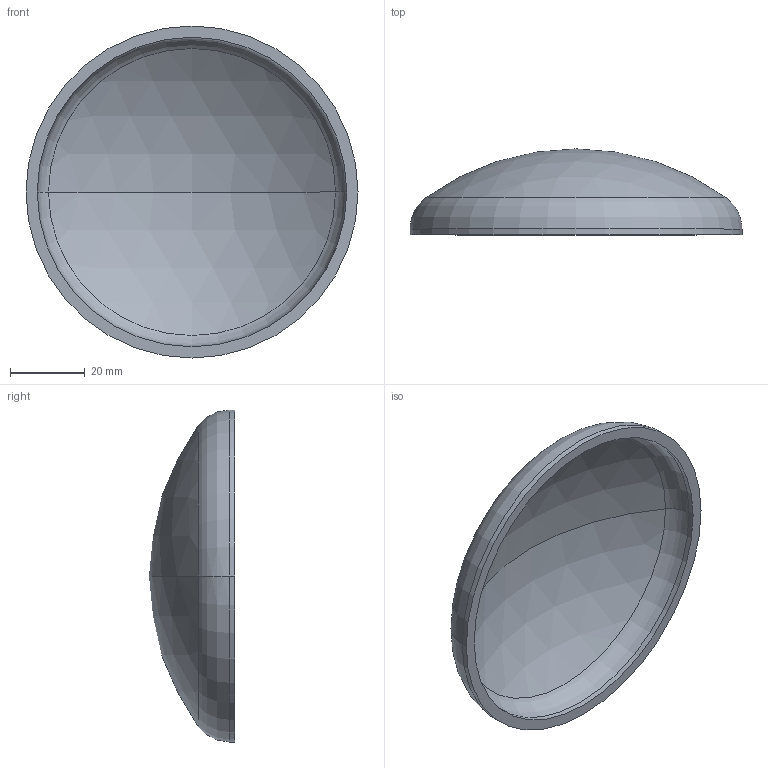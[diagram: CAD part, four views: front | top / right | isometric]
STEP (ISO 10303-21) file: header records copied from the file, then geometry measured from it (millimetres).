
FILE_DESCRIPTION (( 'STEP AP203' ), '1' );
FILE_NAME ('3D_R365_88.9x3_173371840.STEP', '2024-07-16T06:54:13', ( '' ), ( '' ), 'SwSTEP 2.0', 'SolidWorks 2024', '' );
FILE_SCHEMA (( 'CONFIG_CONTROL_DESIGN' ));
Length unit declared in the file: millimetre
Products named in the file (1): 3D_R365_88.9x3_173371840
Bounding box: 88.9 x 23 x 88.9 mm (x, y, z)
Volume: 23903.9 mm3; surface area: 16764.4 mm2
Topology: 1 solids, 1 shells, 13 faces, 24 edges, 14 vertices
Faces by surface type: sphere 4, torus 4, cylinder 4, plane 1
Entity records: 407 total; most frequent: DIRECTION 72, CARTESIAN_POINT 52, ORIENTED_EDGE 48, AXIS2_PLACEMENT_3D 34, EDGE_CURVE 24, CIRCLE 20, VERTEX_POINT 14, EDGE_LOOP 14
